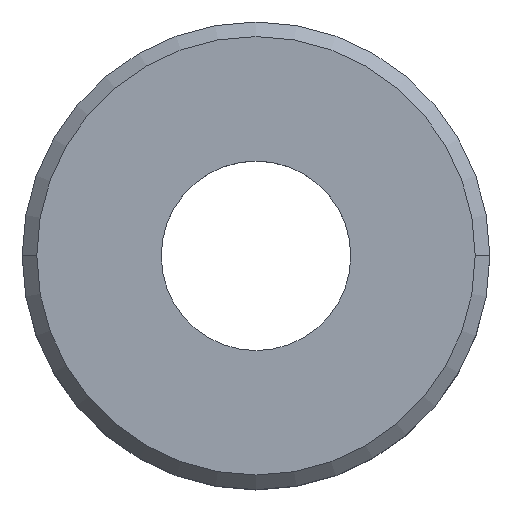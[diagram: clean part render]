
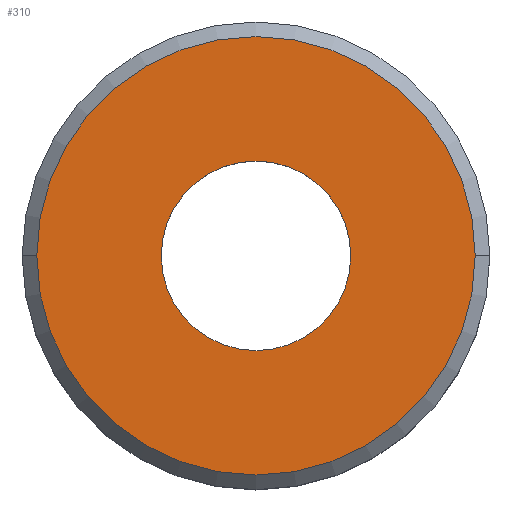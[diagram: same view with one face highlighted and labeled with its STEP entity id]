
A CAD part, top view. The second image highlights one B-rep face of the part: STEP entity #310.
In plain terms, the highlighted planar face has unit normal (0, 0, 1).
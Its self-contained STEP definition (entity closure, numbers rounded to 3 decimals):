
#78=CARTESIAN_POINT('Axis2P3D Location',(0.,0.,3.75)) ;
#82=CARTESIAN_POINT('Vertex',(1.621,0.,3.75)) ;
#84=CARTESIAN_POINT('Vertex',(-1.621,0.,3.75)) ;
#104=CARTESIAN_POINT('Axis2P3D Location',(0.,0.,3.75)) ;
#283=CARTESIAN_POINT('Axis2P3D Location',(0.,0.,3.75)) ;
#288=CARTESIAN_POINT('Axis2P3D Location',(0.,0.,3.75)) ;
#292=CARTESIAN_POINT('Vertex',(-3.75,0.,3.75)) ;
#294=CARTESIAN_POINT('Vertex',(3.75,0.,3.75)) ;
#297=CARTESIAN_POINT('Axis2P3D Location',(0.,0.,3.75)) ;
#79=DIRECTION('Axis2P3D Direction',(0.,-0.,1.)) ;
#105=DIRECTION('Axis2P3D Direction',(0.,-0.,1.)) ;
#284=DIRECTION('Axis2P3D Direction',(0.,0.,1.)) ;
#285=DIRECTION('Axis2P3D XDirection',(1.,0.,0.)) ;
#289=DIRECTION('Axis2P3D Direction',(0.,0.,1.)) ;
#298=DIRECTION('Axis2P3D Direction',(0.,0.,1.)) ;
#80=AXIS2_PLACEMENT_3D('Circle Axis2P3D',#78,#79,$) ;
#106=AXIS2_PLACEMENT_3D('Circle Axis2P3D',#104,#105,$) ;
#286=AXIS2_PLACEMENT_3D('Plane Axis2P3D',#283,#284,#285) ;
#290=AXIS2_PLACEMENT_3D('Circle Axis2P3D',#288,#289,$) ;
#299=AXIS2_PLACEMENT_3D('Circle Axis2P3D',#297,#298,$) ;
#81=CIRCLE('generated circle',#80,1.621) ;
#107=CIRCLE('generated circle',#106,1.621) ;
#291=CIRCLE('generated circle',#290,3.75) ;
#300=CIRCLE('generated circle',#299,3.75) ;
#287=PLANE('',#286) ;
#309=FACE_BOUND('',#306,.T.) ;
#86=EDGE_CURVE('',#83,#85,#81,.T.) ;
#108=EDGE_CURVE('',#85,#83,#107,.T.) ;
#296=EDGE_CURVE('',#293,#295,#291,.T.) ;
#301=EDGE_CURVE('',#295,#293,#300,.T.) ;
#302=EDGE_LOOP('',(#303,#304)) ;
#306=EDGE_LOOP('',(#307,#308)) ;
#303=ORIENTED_EDGE('',*,*,#296,.T.) ;
#304=ORIENTED_EDGE('',*,*,#301,.T.) ;
#307=ORIENTED_EDGE('',*,*,#86,.F.) ;
#308=ORIENTED_EDGE('',*,*,#108,.F.) ;
#83=VERTEX_POINT('',#82) ;
#85=VERTEX_POINT('',#84) ;
#293=VERTEX_POINT('',#292) ;
#295=VERTEX_POINT('',#294) ;
#310=ADVANCED_FACE('Corps principal',(#305,#309),#287,.T.) ;
#305=FACE_OUTER_BOUND('',#302,.T.) ;
